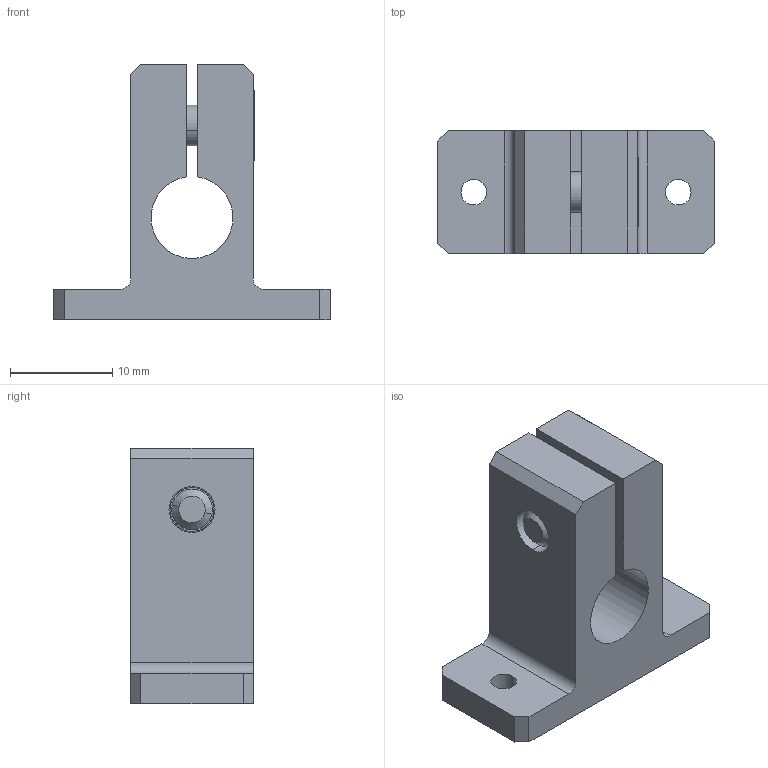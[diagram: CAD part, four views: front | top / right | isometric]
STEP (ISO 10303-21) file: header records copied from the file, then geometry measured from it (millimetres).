
FILE_DESCRIPTION (( 'STEP AP214' ), '1' );
FILE_NAME ('SMBU6-8.STEP', '2019-11-06T08:45:59', ( '微软用户' ), ( '微软中国' ), 'SwSTEP 2.0', 'SolidWorks 2016', '' );
FILE_SCHEMA (( 'AUTOMOTIVE_DESIGN' ));
Length unit declared in the file: millimetre
Products named in the file (1): SMBU6-8
Bounding box: 27 x 12 x 25 mm (x, y, z)
Volume: 3276.1 mm3; surface area: 2852.6 mm2
Topology: 3 solids, 3 shells, 247 faces, 708 edges, 468 vertices
Faces by surface type: plane 222, cylinder 21, cone 2, bspline 2
Entity records: 11008 total; most frequent: CARTESIAN_POINT 1548, DIRECTION 1424, ORIENTED_EDGE 1416, EDGE_CURVE 708, VECTOR 476, LINE 476, AXIS2_PLACEMENT_3D 474, VERTEX_POINT 468
